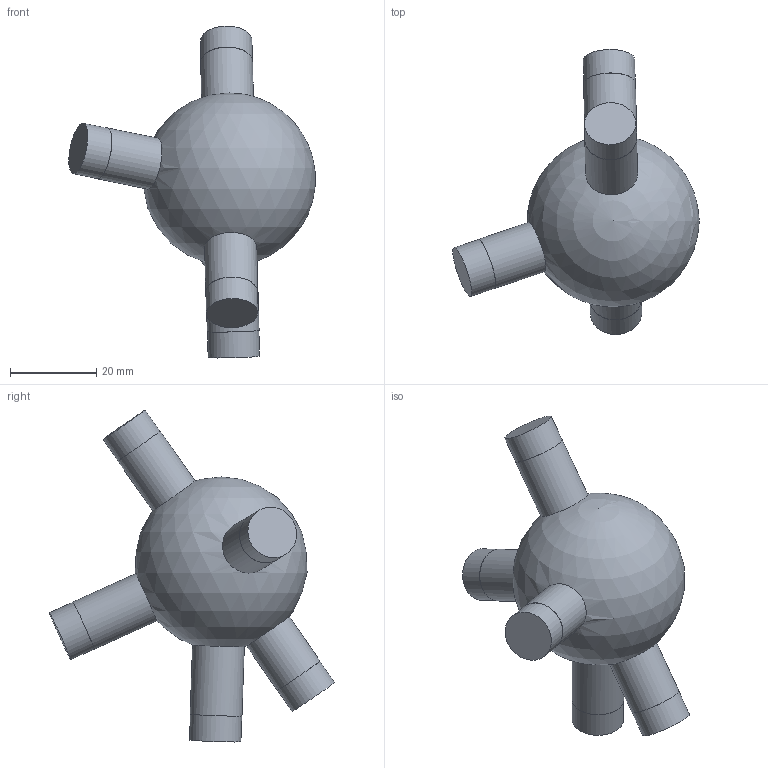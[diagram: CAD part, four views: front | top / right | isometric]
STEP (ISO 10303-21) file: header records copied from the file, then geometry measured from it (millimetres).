
FILE_DESCRIPTION(('Open CASCADE Model'),'2;1');
FILE_NAME('Open CASCADE Shape Model','2026-10-21T12:47:57',('Author'),( 'Open CASCADE'),'Open CASCADE STEP processor 7.9','Open CASCADE 7.9' ,'Unknown');
FILE_SCHEMA(('AUTOMOTIVE_DESIGN { 1 0 10303 214 1 1 1 1 }'));
Length unit declared in the file: millimetre
Products named in the file (1): Open CASCADE STEP translator 7.9 138
Bounding box: 57.03 x 65.97 x 76.86 mm (x, y, z)
Volume: 44618.2 mm3; surface area: 8812.7 mm2
Topology: 1 solids, 1 shells, 21 faces, 33 edges, 22 vertices
Faces by surface type: cylinder 10, plane 10, sphere 1
Full cylindrical faces by diameter (mm): 11.9 x5, 12 x5
Entity records: 1224 total; most frequent: CARTESIAN_POINT 466, DIRECTION 156, ORIENTED_EDGE 64, PCURVE 64, DEFINITIONAL_REPRESENTATION 64, LINE 53, VECTOR 53, AXIS2_PLACEMENT_3D 44
